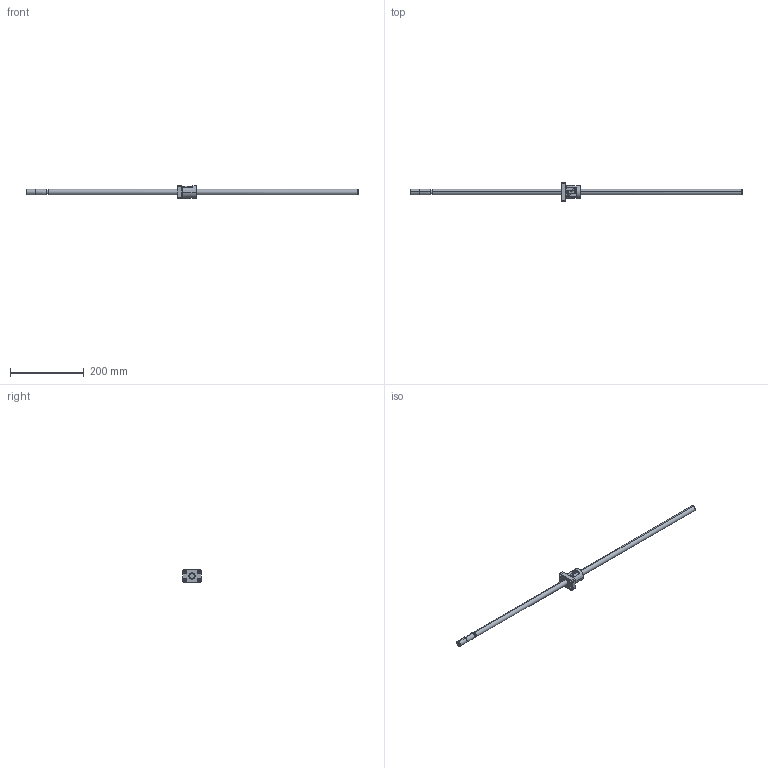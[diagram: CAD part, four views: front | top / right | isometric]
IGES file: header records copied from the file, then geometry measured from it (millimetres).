
Global section: file name: No Iges File Name specified; native system: AutoDesk Inventor R10; preprocessor: AutoDesk Inventor Iges Exporter R10; author: No Author specified; organization: No Organization specified; date: 20101224.140729; units: millimetre
Bounding box: 900 x 50 x 34 mm (x, y, z)
Surface area: 56008.3 mm2 (no closed solid volume)
Topology: 0 solids, 0 shells, 132 faces, 948 edges, 948 vertices
Faces by surface type: bspline 132
